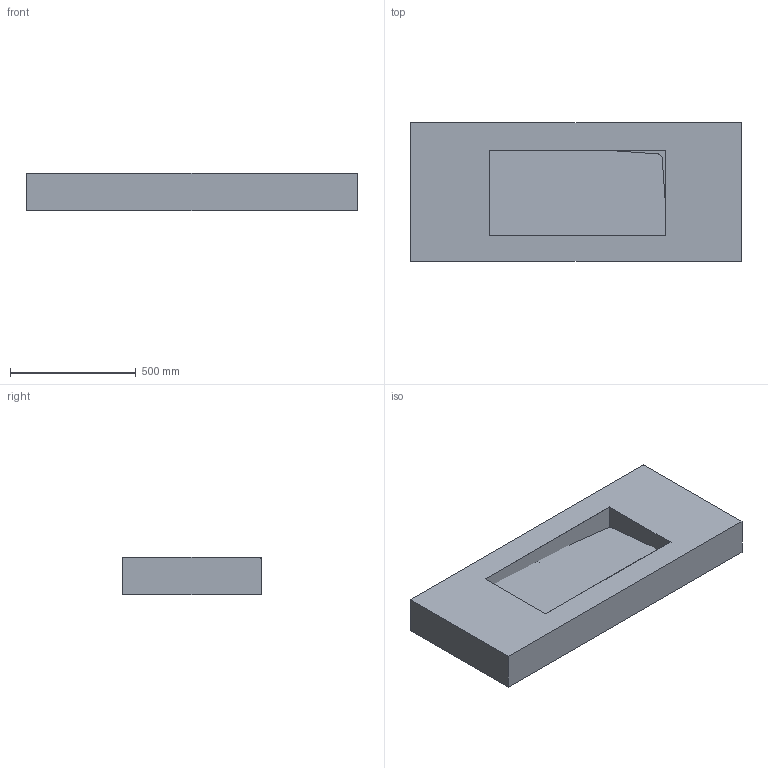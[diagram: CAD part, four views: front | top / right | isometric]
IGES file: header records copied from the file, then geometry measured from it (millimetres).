
Global section: file name: D:\Desktop\GIOVANNI\SCHEDE PRODOTTO\PIANI LAVABO\CAPRI\3D\MOMA DESIGN_PIANI LAVABO_CAPRI SYSTEM.igs; native system: Rhinoceros ( Jan 17 2018 ); preprocessor: Trout Lake IGES 012 Jan 17 2018; date: 230607.123642; units: millimetre
Bounding box: 1314 x 552 x 150 mm (x, y, z)
Surface area: 3288393.7 mm2 (no closed solid volume)
Topology: 0 solids, 0 shells, 78 faces, 336 edges, 336 vertices
Faces by surface type: bspline 78
